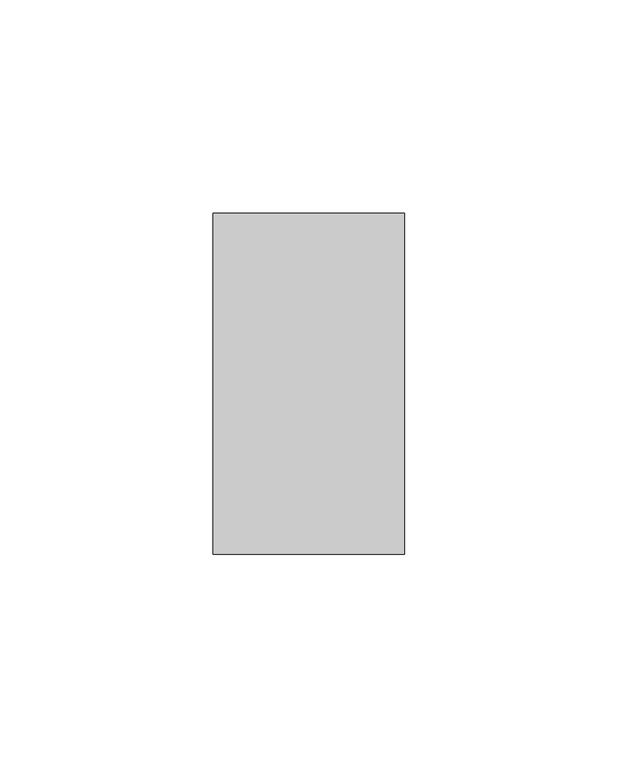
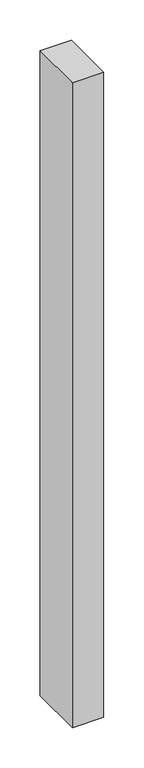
"""IFC4 building model written with IfcOpenShell, lengths in millimetres: member geometry, Obdélníková příčel : VERTI ELEMENT - vertikální."""

from ifc_helpers import new_model, si_unit, frame, origin, place, context, project, spatial, polyline, outline, extrude, source, transform, mapped, element, save


def member_a57b794a(model_context):
    return source(origin(), model_context, "Body", "SweptSolid", [
        extrude(outline(polyline([(-45.0, 40.0), (0.0, 40.0), (0.0, -40.0), (-45.0, -40.0), (-45.0, 40.0)])), frame((0.0, 0.0, -977.5), z_axis=(0.0, 0.0, 1.0), x_axis=(1.0, 0.0, 0.0)), (0.0, 0.0, 1.0), 977.5),
    ])


if __name__ == "__main__":
    model = new_model("IFC4")
    model_context = context("Model", 3, world=origin())
    ifc_project = project(units=[si_unit("LENGTHUNIT", "METRE", prefix="MILLI")], contexts=[model_context])
    site = spatial("IfcSite", under=ifc_project)
    building = spatial("IfcBuilding", under=site)
    placement = place(None, origin())
    member_shape = member_a57b794a(model_context)
    element("IfcMember", 1, ObjectType="Obdélníková příčel : VERTI ELEMENT - vertikální", at=placement, inside=building, context=model_context, shape_type="MappedRepresentation", body=[
        mapped(member_shape, transform((0.0, 0.0, 0.0), x_axis=(1.0, 0.0, 0.0), y_axis=(0.0, 1.0, 0.0), z_axis=(0.0, 0.0, 1.0))),
    ])
    save(model, "model.ifc")
